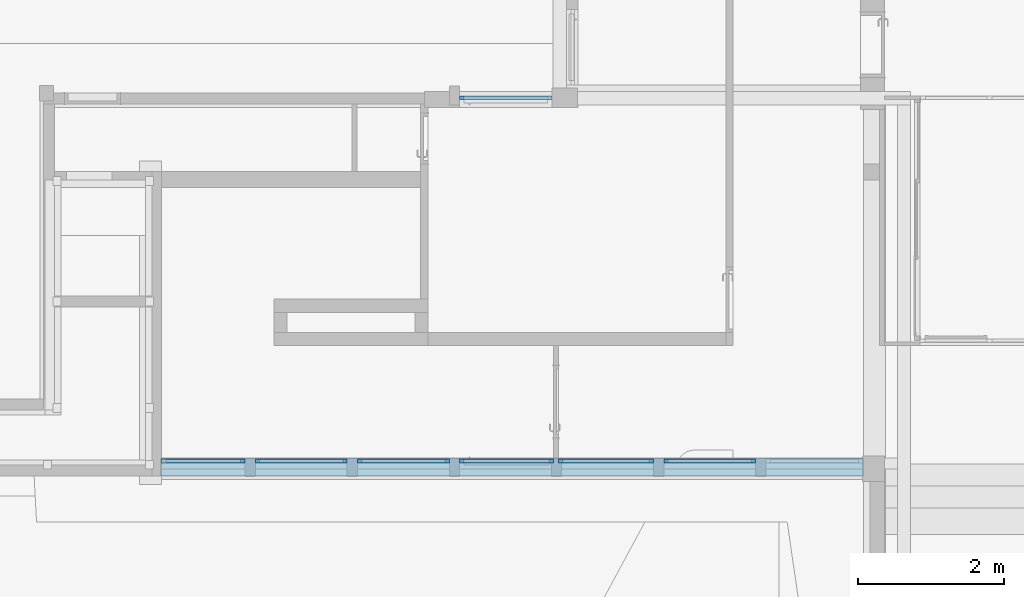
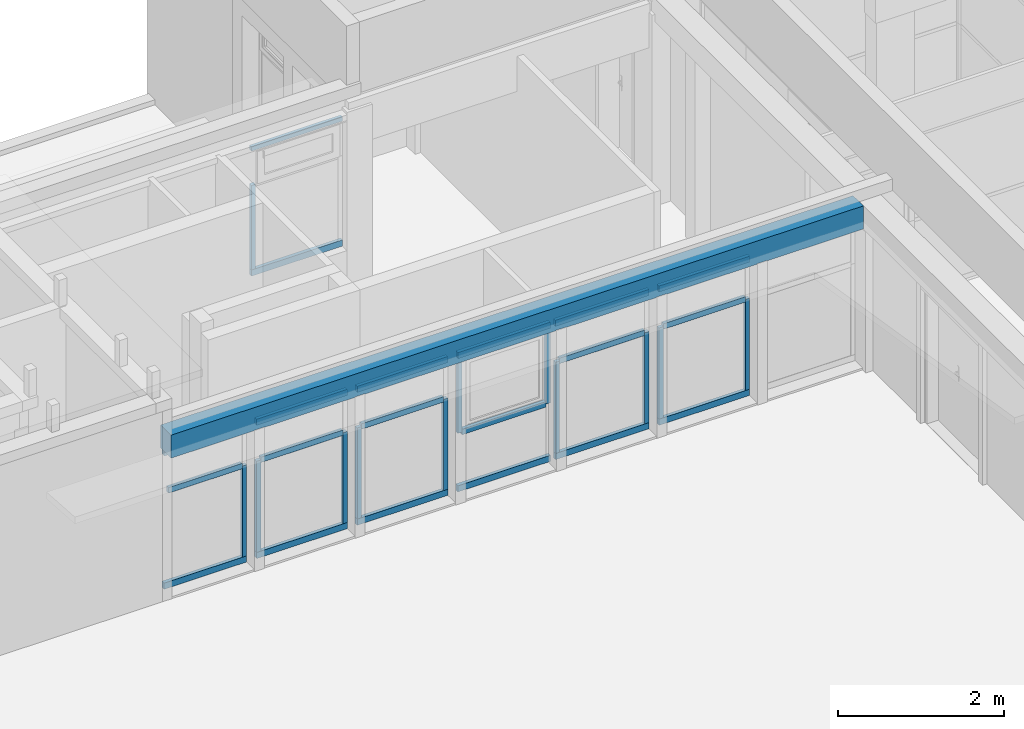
# One storey, part 6 of 49: 32 members, 1 beam, 7 elements without a shape of their own.
"""IFC4 building model written with IfcOpenShell, lengths in metres."""

from ifc_helpers import new_model, entity, si_unit, converted_unit, derived_unit, direction, frame, origin, place, context, subcontext, project, spatial, indexed_curve, outline, extrude, source, transform, mapped, material, type_object, type_shapes, element, aggregate, save


model = new_model("IFC4")

# Units and contexts
model_context = context("Model", 3, precision=1e-05, world=origin(), true_north=direction((6.12303176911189e-17, 1.0)))
body_context = subcontext(model_context, "Body", "Model", "MODEL_VIEW")
ifc_project = project(units=[si_unit("LENGTHUNIT", "METRE"), si_unit("AREAUNIT", "SQUARE_METRE"), si_unit("VOLUMEUNIT", "CUBIC_METRE"), converted_unit("PLANEANGLEUNIT", "DEGREE", entity("IfcRatioMeasure", 0.0174532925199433), si_unit("PLANEANGLEUNIT", "RADIAN"), dimensions=[0, 0, 0, 0, 0, 0, 0]), si_unit("MASSUNIT", "GRAM", prefix="KILO"), derived_unit("MASSDENSITYUNIT", [(si_unit("MASSUNIT", "GRAM", prefix="KILO"), 1), (si_unit("LENGTHUNIT", "METRE"), -3)]), derived_unit("MOMENTOFINERTIAUNIT", [(si_unit("LENGTHUNIT", "METRE"), 4)]), si_unit("TIMEUNIT", "SECOND"), si_unit("FREQUENCYUNIT", "HERTZ"), si_unit("THERMODYNAMICTEMPERATUREUNIT", "DEGREE_CELSIUS"), derived_unit("THERMALTRANSMITTANCEUNIT", [(si_unit("MASSUNIT", "GRAM", prefix="KILO"), 1), (si_unit("THERMODYNAMICTEMPERATUREUNIT", "KELVIN"), -1), (si_unit("TIMEUNIT", "SECOND"), -3)]), derived_unit("VOLUMETRICFLOWRATEUNIT", [(si_unit("LENGTHUNIT", "METRE"), 3), (si_unit("TIMEUNIT", "SECOND"), -1)]), si_unit("ELECTRICCURRENTUNIT", "AMPERE"), si_unit("ELECTRICVOLTAGEUNIT", "VOLT"), si_unit("POWERUNIT", "WATT"), si_unit("FORCEUNIT", "NEWTON", prefix="KILO"), si_unit("ILLUMINANCEUNIT", "LUX"), si_unit("LUMINOUSFLUXUNIT", "LUMEN"), si_unit("LUMINOUSINTENSITYUNIT", "CANDELA"), derived_unit("USERDEFINED", [(si_unit("MASSUNIT", "GRAM", prefix="KILO"), -1), (si_unit("LENGTHUNIT", "METRE"), -2), (si_unit("TIMEUNIT", "SECOND"), 3), (si_unit("LUMINOUSFLUXUNIT", "LUMEN"), 1)]), derived_unit("LINEARVELOCITYUNIT", [(si_unit("LENGTHUNIT", "METRE"), 1), (si_unit("TIMEUNIT", "SECOND"), -1)]), si_unit("PRESSUREUNIT", "PASCAL"), derived_unit("USERDEFINED", [(si_unit("LENGTHUNIT", "METRE"), -2), (si_unit("MASSUNIT", "GRAM", prefix="KILO"), 1), (si_unit("TIMEUNIT", "SECOND"), -2)]), derived_unit("LINEARFORCEUNIT", [(si_unit("MASSUNIT", "GRAM", prefix="KILO"), 1), (si_unit("LENGTHUNIT", "METRE"), 1), (si_unit("TIMEUNIT", "SECOND"), -2), (si_unit("LENGTHUNIT", "METRE"), -1)]), derived_unit("PLANARFORCEUNIT", [(si_unit("MASSUNIT", "GRAM", prefix="KILO"), 1), (si_unit("LENGTHUNIT", "METRE"), 1), (si_unit("TIMEUNIT", "SECOND"), -2), (si_unit("LENGTHUNIT", "METRE"), -2)])], contexts=[model_context])

# Site, building, storey
site_placement = place(None, origin())
site = spatial("IfcSite", under=ifc_project, at=site_placement, Name="Default", CompositionType="ELEMENT")
building_placement = place(site_placement, origin())
building = spatial("IfcBuilding", under=site, at=building_placement, Name="HOTEL CONSULAIRE BOULOGNE SUR MER", CompositionType="ELEMENT")
storey_placement = place(building_placement, frame((0.0, 0.0, 6.81974152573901)))
storey = spatial("IfcBuildingStorey", under=building, at=storey_placement, Name="Niveau 2", CompositionType="ELEMENT", Elevation=6.81974152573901)

# Curtain wall, member
curtain_wall_type = type_object("IfcCurtainWallType", Name="Mur-rideau:Simple panneau", PredefinedType="NOTDEFINED")
curtain_wall_1_placement = place(storey_placement, frame((0.0, 0.0, -6.81974152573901)))
curtain_wall_1 = element("IfcCurtainWall", 1, at=curtain_wall_1_placement, inside=storey, type_object=curtain_wall_type, Name="Mur-rideau:Simple panneau", ObjectType="Mur-rideau:Simple panneau", PredefinedType="NOTDEFINED")
ifc_material_1 = material(Name="PVC - Blanc", Category="Plastique")
member_type_1 = type_object("IfcMemberType", Name="Meneau rectangulaire:50 x 30", PredefinedType="MULLION", material=ifc_material_1)
shared_shape_1 = source(origin(), body_context, "Body", "SweptSolid", [
    extrude(outline(indexed_curve([(-0.025, -0.03), (0.025, -0.03), (0.025, 0.03), (-0.025, 0.03), (-0.025, -0.03)], self_intersect=False)), frame((-0.03, -0.025, -1.342), z_axis=(0.0, 0.0, 1.0), x_axis=(0.0, -1.0, 0.0)), (0.0, 0.0, 1.0), 1.342),
])
type_shapes(member_type_1, [shared_shape_1])
member_1_placement = place(storey_placement, frame((3.04421154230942, -19.6319143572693, 2.102), z_axis=(0.0, 0.0, 1.0), x_axis=(-1.0, 0.0, 0.0)))
member_1 = element("IfcMember", 2, at=member_1_placement, type_object=member_type_1, material=ifc_material_1, Name="Meneau rectangulaire:50 x 30", ObjectType="Meneau rectangulaire:50 x 30", PredefinedType="MULLION", context=body_context, shape_type="MappedRepresentation", body=[
    mapped(shared_shape_1, transform((0.0, 0.0, 0.0), scale=1.0)),
])

curtain_wall_2_placement = place(storey_placement, frame((0.0, 0.0, -6.81974152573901)))
curtain_wall_2 = element("IfcCurtainWall", 3, at=curtain_wall_2_placement, inside=storey, type_object=curtain_wall_type, Name="Mur-rideau:Simple panneau", ObjectType="Mur-rideau:Simple panneau", PredefinedType="NOTDEFINED")
member_2_placement = place(storey_placement, frame((4.44421154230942, -19.6319143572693, 2.102), z_axis=(0.0, 0.0, 1.0), x_axis=(-1.0, 0.0, 0.0)))
member_2 = element("IfcMember", 4, at=member_2_placement, type_object=member_type_1, material=ifc_material_1, Name="Meneau rectangulaire:50 x 30", ObjectType="Meneau rectangulaire:50 x 30", PredefinedType="MULLION", context=body_context, shape_type="MappedRepresentation", body=[
    mapped(shared_shape_1, transform((0.0, 0.0, 0.0), scale=1.0)),
])

curtain_wall_3_placement = place(storey_placement, frame((0.0, 0.0, -6.81974152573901)))
curtain_wall_3 = element("IfcCurtainWall", 5, at=curtain_wall_3_placement, inside=storey, type_object=curtain_wall_type, Name="Mur-rideau:Simple panneau", ObjectType="Mur-rideau:Simple panneau", PredefinedType="NOTDEFINED")
member_3_placement = place(storey_placement, frame((7.2011767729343, -19.6319143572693, 2.102), z_axis=(0.0, 0.0, 1.0), x_axis=(-1.0, 0.0, 0.0)))
member_3 = element("IfcMember", 6, at=member_3_placement, type_object=member_type_1, material=ifc_material_1, Name="Meneau rectangulaire:50 x 30", ObjectType="Meneau rectangulaire:50 x 30", PredefinedType="MULLION", context=body_context, shape_type="MappedRepresentation", body=[
    mapped(shared_shape_1, transform((0.0, 0.0, 0.0), scale=1.0)),
])

curtain_wall_4_placement = place(storey_placement, frame((0.0, 0.0, -6.81974152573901)))
curtain_wall_4 = element("IfcCurtainWall", 7, at=curtain_wall_4_placement, inside=storey, type_object=curtain_wall_type, Name="Mur-rideau:Simple panneau", ObjectType="Mur-rideau:Simple panneau", PredefinedType="NOTDEFINED")
member_4_placement = place(storey_placement, frame((8.64421154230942, -19.6319143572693, 2.102), z_axis=(0.0, 0.0, 1.0), x_axis=(-1.0, 0.0, 0.0)))
member_4 = element("IfcMember", 8, at=member_4_placement, type_object=member_type_1, material=ifc_material_1, Name="Meneau rectangulaire:50 x 30", ObjectType="Meneau rectangulaire:50 x 30", PredefinedType="MULLION", context=body_context, shape_type="MappedRepresentation", body=[
    mapped(shared_shape_1, transform((0.0, 0.0, 0.0), scale=1.0)),
])

curtain_wall_5_placement = place(storey_placement, frame((0.0, 0.0, -6.81974152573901)))
curtain_wall_5 = element("IfcCurtainWall", 9, at=curtain_wall_5_placement, inside=storey, type_object=curtain_wall_type, Name="Mur-rideau:Simple panneau", ObjectType="Mur-rideau:Simple panneau", PredefinedType="NOTDEFINED")
member_type_2 = type_object("IfcMemberType", Name="Meneau rectangulaire:50 x 30", PredefinedType="MULLION", material=ifc_material_1)
shared_shape_2 = source(origin(), body_context, "Body", "SweptSolid", [
    extrude(outline(indexed_curve([(-0.025, -0.03), (0.025, -0.03), (0.025, 0.03), (-0.025, 0.03), (-0.025, -0.03)], self_intersect=False)), frame((-0.03, -0.025, -1.342), z_axis=(0.0, 0.0, 1.0), x_axis=(0.0, -1.0, 0.0)), (0.0, 0.0, 1.0), 1.342),
])
type_shapes(member_type_2, [shared_shape_2])
member_5_placement = place(storey_placement, frame((2.90421154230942, -19.6319143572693, 0.76), z_axis=(0.0, 0.0, -1.0), x_axis=(1.0, 0.0, 0.0)))
member_5 = element("IfcMember", 10, at=member_5_placement, type_object=member_type_2, material=ifc_material_1, Name="Meneau rectangulaire:50 x 30", ObjectType="Meneau rectangulaire:50 x 30", PredefinedType="MULLION", context=body_context, shape_type="MappedRepresentation", body=[
    mapped(shared_shape_2, transform((0.0, 0.0, 0.0), scale=1.0)),
])

# Member
member_6_placement = place(storey_placement, frame((4.30421154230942, -19.6319143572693, 0.76), z_axis=(0.0, 0.0, -1.0), x_axis=(1.0, 0.0, 0.0)))
member_6 = element("IfcMember", 11, at=member_6_placement, type_object=member_type_2, material=ifc_material_1, Name="Meneau rectangulaire:50 x 30", ObjectType="Meneau rectangulaire:50 x 30", PredefinedType="MULLION", context=body_context, shape_type="MappedRepresentation", body=[
    mapped(shared_shape_2, transform((0.0, 0.0, 0.0), scale=1.0)),
])

member_7_placement = place(storey_placement, frame((5.70421154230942, -19.6319143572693, 0.76), z_axis=(0.0, 0.0, -1.0), x_axis=(1.0, 0.0, 0.0)))
member_7 = element("IfcMember", 12, at=member_7_placement, type_object=member_type_2, material=ifc_material_1, Name="Meneau rectangulaire:50 x 30", ObjectType="Meneau rectangulaire:50 x 30", PredefinedType="MULLION", context=body_context, shape_type="MappedRepresentation", body=[
    mapped(shared_shape_2, transform((0.0, 0.0, 0.0), scale=1.0)),
])

member_8_placement = place(storey_placement, frame((8.50421154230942, -19.6319143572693, 0.76), z_axis=(0.0, 0.0, -1.0), x_axis=(1.0, 0.0, 0.0)))
member_8 = element("IfcMember", 13, at=member_8_placement, type_object=member_type_2, material=ifc_material_1, Name="Meneau rectangulaire:50 x 30", ObjectType="Meneau rectangulaire:50 x 30", PredefinedType="MULLION", context=body_context, shape_type="MappedRepresentation", body=[
    mapped(shared_shape_2, transform((0.0, 0.0, 0.0), scale=1.0)),
])

member_9_placement = place(storey_placement, frame((9.90421154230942, -19.6319143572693, 0.76), z_axis=(0.0, 0.0, -1.0), x_axis=(1.0, 0.0, 0.0)))
member_9 = element("IfcMember", 14, at=member_9_placement, type_object=member_type_2, material=ifc_material_1, Name="Meneau rectangulaire:50 x 30", ObjectType="Meneau rectangulaire:50 x 30", PredefinedType="MULLION", context=body_context, shape_type="MappedRepresentation", body=[
    mapped(shared_shape_2, transform((0.0, 0.0, 0.0), scale=1.0)),
])

member_type_3 = type_object("IfcMemberType", Name="Meneau rectangulaire:50 x 40", PredefinedType="MULLION", material=ifc_material_1)
shared_shape_3 = source(origin(), body_context, "Body", "SweptSolid", [
    extrude(outline(indexed_curve([(-0.025, -0.04), (0.025, -0.04), (0.025, 0.04), (-0.025, 0.04), (-0.025, -0.04)], self_intersect=False)), frame((0.0, -0.025, -1.02674022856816), z_axis=(0.0, 0.0, 1.0), x_axis=(0.0, -1.0, 0.0)), (0.0, 0.0, 1.0), 1.02674022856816),
])
type_shapes(member_type_3, [shared_shape_3])
member_10_placement = place(storey_placement, frame((2.84421154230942, -19.6319143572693, 2.102), z_axis=(1.0, 0.0, 0.0), x_axis=(0.0, 0.0, 1.0)))
member_10 = element("IfcMember", 15, at=member_10_placement, type_object=member_type_3, material=ifc_material_1, Name="Meneau rectangulaire:50 x 40", ObjectType="Meneau rectangulaire:50 x 40", PredefinedType="MULLION", context=body_context, shape_type="MappedRepresentation", body=[
    mapped(shared_shape_3, transform((0.0, 0.0, 0.0), scale=1.0)),
])

member_type_4 = type_object("IfcMemberType", Name="Meneau rectangulaire:50 x 45", PredefinedType="MULLION", material=ifc_material_1)
shared_shape_4 = source(origin(), body_context, "Body", "SweptSolid", [
    extrude(outline(indexed_curve([(-0.025, -0.045), (0.025, -0.045), (0.025, 0.045), (-0.025, 0.045), (-0.025, -0.045)], self_intersect=False)), frame((-0.045, -0.025, -1.14674022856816), z_axis=(0.0, 0.0, 1.0), x_axis=(0.0, -1.0, 0.0)), (0.0, 0.0, 1.0), 1.14674022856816),
])
type_shapes(member_type_4, [shared_shape_4])
member_11_placement = place(storey_placement, frame((2.90421154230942, -19.6319143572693, 2.71889394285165), z_axis=(1.0, 0.0, 0.0), x_axis=(0.0, 0.0, 1.0)))
member_11 = element("IfcMember", 16, at=member_11_placement, type_object=member_type_4, material=ifc_material_1, Name="Meneau rectangulaire:50 x 45", ObjectType="Meneau rectangulaire:50 x 45", PredefinedType="MULLION", context=body_context, shape_type="MappedRepresentation", body=[
    mapped(shared_shape_4, transform((0.0, 0.0, 0.0), scale=1.0)),
])

member_type_5 = type_object("IfcMemberType", Name="Meneau rectangulaire:50 x 45", PredefinedType="MULLION", material=ifc_material_1)
shared_shape_5 = source(origin(), body_context, "Body", "SweptSolid", [
    extrude(outline(indexed_curve([(-0.025, -0.045), (0.025, -0.045), (0.025, 0.045), (-0.025, 0.045), (-0.025, -0.045)], self_intersect=False)), frame((-0.045, -0.025, -1.14674022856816), z_axis=(0.0, 0.0, 1.0), x_axis=(0.0, -1.0, 0.0)), (0.0, 0.0, 1.0), 1.14674022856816),
])
type_shapes(member_type_5, [shared_shape_5])
member_12_placement = place(storey_placement, frame((1.75747131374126, -19.6319143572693, 0.67), z_axis=(-1.0, 0.0, 0.0), x_axis=(0.0, 0.0, -1.0)))
member_12 = element("IfcMember", 17, at=member_12_placement, type_object=member_type_5, material=ifc_material_1, Name="Meneau rectangulaire:50 x 45", ObjectType="Meneau rectangulaire:50 x 45", PredefinedType="MULLION", context=body_context, shape_type="MappedRepresentation", body=[
    mapped(shared_shape_5, transform((0.0, 0.0, 0.0), scale=1.0)),
])

aggregate(curtain_wall_5, [member_5, member_10, member_11, member_12])

member_type_6 = type_object("IfcMemberType", Name="Meneau rectangulaire:50 x 40", PredefinedType="MULLION", material=ifc_material_1)
shared_shape_6 = source(origin(), body_context, "Body", "SweptSolid", [
    extrude(outline(indexed_curve([(-0.025, -0.04), (0.025, -0.04), (0.025, 0.04), (-0.025, 0.04), (-0.025, -0.04)], self_intersect=False)), frame((0.0, -0.025, -1.14), z_axis=(0.0, 0.0, 1.0), x_axis=(0.0, -1.0, 0.0)), (0.0, 0.0, 1.0), 1.14),
])
type_shapes(member_type_6, [shared_shape_6])
member_13_placement = place(storey_placement, frame((4.24421154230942, -19.6319143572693, 2.102), z_axis=(1.0, 0.0, 0.0), x_axis=(0.0, 0.0, 1.0)))
member_13 = element("IfcMember", 18, at=member_13_placement, type_object=member_type_6, material=ifc_material_1, Name="Meneau rectangulaire:50 x 40", ObjectType="Meneau rectangulaire:50 x 40", PredefinedType="MULLION", context=body_context, shape_type="MappedRepresentation", body=[
    mapped(shared_shape_6, transform((0.0, 0.0, 0.0), scale=1.0)),
])

member_14_placement = place(storey_placement, frame((5.64421154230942, -19.6319143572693, 2.102), z_axis=(1.0, 0.0, 0.0), x_axis=(0.0, 0.0, 1.0)))
member_14 = element("IfcMember", 19, at=member_14_placement, type_object=member_type_6, material=ifc_material_1, Name="Meneau rectangulaire:50 x 40", ObjectType="Meneau rectangulaire:50 x 40", PredefinedType="MULLION", context=body_context, shape_type="MappedRepresentation", body=[
    mapped(shared_shape_6, transform((0.0, 0.0, 0.0), scale=1.0)),
])

member_15_placement = place(storey_placement, frame((9.84421154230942, -19.6319143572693, 2.102), z_axis=(1.0, 0.0, 0.0), x_axis=(0.0, 0.0, 1.0)))
member_15 = element("IfcMember", 20, at=member_15_placement, type_object=member_type_6, material=ifc_material_1, Name="Meneau rectangulaire:50 x 40", ObjectType="Meneau rectangulaire:50 x 40", PredefinedType="MULLION", context=body_context, shape_type="MappedRepresentation", body=[
    mapped(shared_shape_6, transform((0.0, 0.0, 0.0), scale=1.0)),
])

member_type_7 = type_object("IfcMemberType", Name="Meneau rectangulaire:50 x 45", PredefinedType="MULLION", material=ifc_material_1)
shared_shape_7 = source(origin(), body_context, "Body", "SweptSolid", [
    extrude(outline(indexed_curve([(-0.025, -0.045), (0.025, -0.045), (0.025, 0.045), (-0.025, 0.045), (-0.025, -0.045)], self_intersect=False)), frame((-0.045, -0.025, -1.26), z_axis=(0.0, 0.0, 1.0), x_axis=(0.0, -1.0, 0.0)), (0.0, 0.0, 1.0), 1.26),
])
type_shapes(member_type_7, [shared_shape_7])
member_16_placement = place(storey_placement, frame((4.30421154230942, -19.6319143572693, 2.71889394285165), z_axis=(1.0, 0.0, 0.0), x_axis=(0.0, 0.0, 1.0)))
member_16 = element("IfcMember", 21, at=member_16_placement, type_object=member_type_7, material=ifc_material_1, Name="Meneau rectangulaire:50 x 45", ObjectType="Meneau rectangulaire:50 x 45", PredefinedType="MULLION", context=body_context, shape_type="MappedRepresentation", body=[
    mapped(shared_shape_7, transform((0.0, 0.0, 0.0), scale=1.0)),
])

member_17_placement = place(storey_placement, frame((5.70421154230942, -19.6319143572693, 2.712), z_axis=(1.0, 0.0, 0.0), x_axis=(0.0, 0.0, 1.0)))
member_17 = element("IfcMember", 22, at=member_17_placement, type_object=member_type_7, material=ifc_material_1, Name="Meneau rectangulaire:50 x 45", ObjectType="Meneau rectangulaire:50 x 45", PredefinedType="MULLION", context=body_context, shape_type="MappedRepresentation", body=[
    mapped(shared_shape_7, transform((0.0, 0.0, 0.0), scale=1.0)),
])

member_18_placement = place(storey_placement, frame((9.90421154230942, -19.6319143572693, 2.71889394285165), z_axis=(1.0, 0.0, 0.0), x_axis=(0.0, 0.0, 1.0)))
member_18 = element("IfcMember", 23, at=member_18_placement, type_object=member_type_7, material=ifc_material_1, Name="Meneau rectangulaire:50 x 45", ObjectType="Meneau rectangulaire:50 x 45", PredefinedType="MULLION", context=body_context, shape_type="MappedRepresentation", body=[
    mapped(shared_shape_7, transform((0.0, 0.0, 0.0), scale=1.0)),
])

member_type_8 = type_object("IfcMemberType", Name="Meneau rectangulaire:50 x 45", PredefinedType="MULLION", material=ifc_material_1)
shared_shape_8 = source(origin(), body_context, "Body", "SweptSolid", [
    extrude(outline(indexed_curve([(-0.025, -0.045), (0.025, -0.045), (0.025, 0.045), (-0.025, 0.045), (-0.025, -0.045)], self_intersect=False)), frame((-0.045, -0.025, -1.26), z_axis=(0.0, 0.0, 1.0), x_axis=(0.0, -1.0, 0.0)), (0.0, 0.0, 1.0), 1.26),
])
type_shapes(member_type_8, [shared_shape_8])
member_19_placement = place(storey_placement, frame((3.04421154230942, -19.6319143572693, 0.67), z_axis=(-1.0, 0.0, 0.0), x_axis=(0.0, 0.0, -1.0)))
member_19 = element("IfcMember", 24, at=member_19_placement, type_object=member_type_8, material=ifc_material_1, Name="Meneau rectangulaire:50 x 45", ObjectType="Meneau rectangulaire:50 x 45", PredefinedType="MULLION", context=body_context, shape_type="MappedRepresentation", body=[
    mapped(shared_shape_8, transform((0.0, 0.0, 0.0), scale=1.0)),
])

aggregate(curtain_wall_1, [member_1, member_6, member_13, member_16, member_19])

member_20_placement = place(storey_placement, frame((4.44421154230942, -19.6319143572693, 0.67), z_axis=(-1.0, 0.0, 0.0), x_axis=(0.0, 0.0, -1.0)))
member_20 = element("IfcMember", 25, at=member_20_placement, type_object=member_type_8, material=ifc_material_1, Name="Meneau rectangulaire:50 x 45", ObjectType="Meneau rectangulaire:50 x 45", PredefinedType="MULLION", context=body_context, shape_type="MappedRepresentation", body=[
    mapped(shared_shape_8, transform((0.0, 0.0, 0.0), scale=1.0)),
])

aggregate(curtain_wall_2, [member_2, member_7, member_14, member_17, member_20])

member_21_placement = place(storey_placement, frame((8.64421154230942, -19.6319143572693, 0.67), z_axis=(-1.0, 0.0, 0.0), x_axis=(0.0, 0.0, -1.0)))
member_21 = element("IfcMember", 26, at=member_21_placement, type_object=member_type_8, material=ifc_material_1, Name="Meneau rectangulaire:50 x 45", ObjectType="Meneau rectangulaire:50 x 45", PredefinedType="MULLION", context=body_context, shape_type="MappedRepresentation", body=[
    mapped(shared_shape_8, transform((0.0, 0.0, 0.0), scale=1.0)),
])

aggregate(curtain_wall_4, [member_4, member_9, member_15, member_18, member_21])

# Curtain wall, members
curtain_wall_6_placement = place(storey_placement, frame((0.0, 0.0, -6.81974152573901)))
curtain_wall_6 = element("IfcCurtainWall", 27, at=curtain_wall_6_placement, inside=storey, type_object=curtain_wall_type, Name="Mur-rideau:Simple panneau", ObjectType="Mur-rideau:Simple panneau", PredefinedType="NOTDEFINED")
member_type_9 = type_object("IfcMemberType", Name="Meneau rectangulaire:50 x 30", PredefinedType="MULLION", material=ifc_material_1)
shared_shape_9 = source(origin(), body_context, "Body", "SweptSolid", [
    extrude(outline(indexed_curve([(-0.025, -0.03), (0.025, -0.03), (0.025, 0.03), (-0.025, 0.03), (-0.025, -0.03)], self_intersect=False)), frame((-0.03, -0.025, -1.09789394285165), z_axis=(0.0, 0.0, 1.0), x_axis=(0.0, -1.0, 0.0)), (0.0, 0.0, 1.0), 1.09789394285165),
])
type_shapes(member_type_9, [shared_shape_9])
member_22_placement = place(storey_placement, frame((5.84421154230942, -19.6319143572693, 2.62889394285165), z_axis=(0.0, 0.0, 1.0), x_axis=(-1.0, 0.0, 0.0)))
member_22 = element("IfcMember", 28, at=member_22_placement, type_object=member_type_9, material=ifc_material_1, Name="Meneau rectangulaire:50 x 30", ObjectType="Meneau rectangulaire:50 x 30", PredefinedType="MULLION", context=body_context, shape_type="MappedRepresentation", body=[
    mapped(shared_shape_9, transform((0.0, 0.0, 0.0), scale=1.0)),
])
member_type_10 = type_object("IfcMemberType", Name="Meneau rectangulaire:50 x 30", PredefinedType="MULLION", material=ifc_material_1)
shared_shape_10 = source(origin(), body_context, "Body", "SweptSolid", [
    extrude(outline(indexed_curve([(-0.025, -0.03), (0.025, -0.03), (0.025, 0.03), (-0.025, 0.03), (-0.025, -0.03)], self_intersect=False)), frame((-0.03, -0.025, -1.09789394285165), z_axis=(0.0, 0.0, 1.0), x_axis=(0.0, -1.0, 0.0)), (0.0, 0.0, 1.0), 1.09789394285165),
])
type_shapes(member_type_10, [shared_shape_10])
member_23_placement = place(storey_placement, frame((7.1311767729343, -19.6319143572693, 1.531), z_axis=(0.0, 0.0, -1.0), x_axis=(1.0, 0.0, 0.0)))
member_23 = element("IfcMember", 29, at=member_23_placement, type_object=member_type_10, material=ifc_material_1, Name="Meneau rectangulaire:50 x 30", ObjectType="Meneau rectangulaire:50 x 30", PredefinedType="MULLION", context=body_context, shape_type="MappedRepresentation", body=[
    mapped(shared_shape_10, transform((0.0, 0.0, 0.0), scale=1.0)),
])
member_type_11 = type_object("IfcMemberType", Name="Meneau rectangulaire:50 x 40", PredefinedType="MULLION", material=ifc_material_1)
shared_shape_11 = source(origin(), body_context, "Body", "SweptSolid", [
    extrude(outline(indexed_curve([(-0.025, -0.04), (0.025, -0.04), (0.025, 0.04), (-0.025, 0.04), (-0.025, -0.04)], self_intersect=False)), frame((0.0, -0.025, -1.16696523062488), z_axis=(0.0, 0.0, 1.0), x_axis=(0.0, -1.0, 0.0)), (0.0, 0.0, 1.0), 1.16696523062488),
])
type_shapes(member_type_11, [shared_shape_11])
member_24_placement = place(storey_placement, frame((7.0711767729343, -19.6319143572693, 1.531), z_axis=(1.0, 0.0, 0.0), x_axis=(0.0, 0.0, 1.0)))
member_24 = element("IfcMember", 30, at=member_24_placement, type_object=member_type_11, material=ifc_material_1, Name="Meneau rectangulaire:50 x 40", ObjectType="Meneau rectangulaire:50 x 40", PredefinedType="MULLION", context=body_context, shape_type="MappedRepresentation", body=[
    mapped(shared_shape_11, transform((0.0, 0.0, 0.0), scale=1.0)),
])
member_type_12 = type_object("IfcMemberType", Name="Meneau rectangulaire:50 x 45", PredefinedType="MULLION", material=ifc_material_1)
shared_shape_12 = source(origin(), body_context, "Body", "SweptSolid", [
    extrude(outline(indexed_curve([(-0.025, -0.045), (0.025, -0.045), (0.025, 0.045), (-0.025, 0.045), (-0.025, -0.045)], self_intersect=False)), frame((-0.045, -0.025, -1.28696523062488), z_axis=(0.0, 0.0, 1.0), x_axis=(0.0, -1.0, 0.0)), (0.0, 0.0, 1.0), 1.28696523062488),
])
type_shapes(member_type_12, [shared_shape_12])
member_25_placement = place(storey_placement, frame((7.1311767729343, -19.6319143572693, 2.71889394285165), z_axis=(1.0, 0.0, 0.0), x_axis=(0.0, 0.0, 1.0)))
member_25 = element("IfcMember", 31, at=member_25_placement, type_object=member_type_12, material=ifc_material_1, Name="Meneau rectangulaire:50 x 45", ObjectType="Meneau rectangulaire:50 x 45", PredefinedType="MULLION", context=body_context, shape_type="MappedRepresentation", body=[
    mapped(shared_shape_12, transform((0.0, 0.0, 0.0), scale=1.0)),
])
member_type_13 = type_object("IfcMemberType", Name="Meneau rectangulaire:50 x 45", PredefinedType="MULLION", material=ifc_material_1)
shared_shape_13 = source(origin(), body_context, "Body", "SweptSolid", [
    extrude(outline(indexed_curve([(-0.025, -0.045), (0.025, -0.045), (0.025, 0.045), (-0.025, 0.045), (-0.025, -0.045)], self_intersect=False)), frame((-0.045, -0.025, -1.28696523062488), z_axis=(0.0, 0.0, 1.0), x_axis=(0.0, -1.0, 0.0)), (0.0, 0.0, 1.0), 1.28696523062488),
])
type_shapes(member_type_13, [shared_shape_13])
member_26_placement = place(storey_placement, frame((5.84421154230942, -19.6319143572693, 0.67), z_axis=(-1.0, 0.0, 0.0), x_axis=(0.0, 0.0, -1.0)))
member_26 = element("IfcMember", 32, at=member_26_placement, type_object=member_type_13, material=ifc_material_1, Name="Meneau rectangulaire:50 x 45", ObjectType="Meneau rectangulaire:50 x 45", PredefinedType="MULLION", context=body_context, shape_type="MappedRepresentation", body=[
    mapped(shared_shape_13, transform((0.0, 0.0, 0.0), scale=1.0)),
])
aggregate(curtain_wall_6, [member_22, member_23, member_24, member_25, member_26])

# Member
member_type_14 = type_object("IfcMemberType", Name="Meneau rectangulaire:50 x 40", PredefinedType="MULLION", material=ifc_material_1)
shared_shape_14 = source(origin(), body_context, "Body", "SweptSolid", [
    extrude(outline(indexed_curve([(-0.025, -0.04), (0.025, -0.04), (0.025, 0.04), (-0.025, 0.04), (-0.025, -0.04)], self_intersect=False)), frame((0.0, -0.025, -1.18303476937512), z_axis=(0.0, 0.0, 1.0), x_axis=(0.0, -1.0, 0.0)), (0.0, 0.0, 1.0), 1.18303476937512),
])
type_shapes(member_type_14, [shared_shape_14])
member_27_placement = place(storey_placement, frame((8.44421154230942, -19.6319143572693, 2.102), z_axis=(1.0, 0.0, 0.0), x_axis=(0.0, 0.0, 1.0)))
member_27 = element("IfcMember", 33, at=member_27_placement, type_object=member_type_14, material=ifc_material_1, Name="Meneau rectangulaire:50 x 40", ObjectType="Meneau rectangulaire:50 x 40", PredefinedType="MULLION", context=body_context, shape_type="MappedRepresentation", body=[
    mapped(shared_shape_14, transform((0.0, 0.0, 0.0), scale=1.0)),
])

member_type_15 = type_object("IfcMemberType", Name="Meneau rectangulaire:50 x 45", PredefinedType="MULLION", material=ifc_material_1)
shared_shape_15 = source(origin(), body_context, "Body", "SweptSolid", [
    extrude(outline(indexed_curve([(-0.025, -0.045), (0.025, -0.045), (0.025, 0.045), (-0.025, 0.045), (-0.025, -0.045)], self_intersect=False)), frame((-0.045, -0.025, -1.30303476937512), z_axis=(0.0, 0.0, 1.0), x_axis=(0.0, -1.0, 0.0)), (0.0, 0.0, 1.0), 1.30303476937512),
])
type_shapes(member_type_15, [shared_shape_15])
member_28_placement = place(storey_placement, frame((8.50421154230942, -19.6319143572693, 2.71889394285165), z_axis=(1.0, 0.0, 0.0), x_axis=(0.0, 0.0, 1.0)))
member_28 = element("IfcMember", 34, at=member_28_placement, type_object=member_type_15, material=ifc_material_1, Name="Meneau rectangulaire:50 x 45", ObjectType="Meneau rectangulaire:50 x 45", PredefinedType="MULLION", context=body_context, shape_type="MappedRepresentation", body=[
    mapped(shared_shape_15, transform((0.0, 0.0, 0.0), scale=1.0)),
])

member_type_16 = type_object("IfcMemberType", Name="Meneau rectangulaire:50 x 45", PredefinedType="MULLION", material=ifc_material_1)
shared_shape_16 = source(origin(), body_context, "Body", "SweptSolid", [
    extrude(outline(indexed_curve([(-0.025, -0.045), (0.025, -0.045), (0.025, 0.045), (-0.025, 0.045), (-0.025, -0.045)], self_intersect=False)), frame((-0.045, -0.025, -1.30303476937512), z_axis=(0.0, 0.0, 1.0), x_axis=(0.0, -1.0, 0.0)), (0.0, 0.0, 1.0), 1.30303476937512),
])
type_shapes(member_type_16, [shared_shape_16])
member_29_placement = place(storey_placement, frame((7.2011767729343, -19.6319143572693, 0.67), z_axis=(-1.0, 0.0, 0.0), x_axis=(0.0, 0.0, -1.0)))
member_29 = element("IfcMember", 35, at=member_29_placement, type_object=member_type_16, material=ifc_material_1, Name="Meneau rectangulaire:50 x 45", ObjectType="Meneau rectangulaire:50 x 45", PredefinedType="MULLION", context=body_context, shape_type="MappedRepresentation", body=[
    mapped(shared_shape_16, transform((0.0, 0.0, 0.0), scale=1.0)),
])

aggregate(curtain_wall_3, [member_3, member_8, member_27, member_28, member_29])

# Curtain wall, members
curtain_wall_7_placement = place(storey_placement, frame((0.0, 0.0, -6.81974152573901)))
curtain_wall_7 = element("IfcCurtainWall", 36, at=curtain_wall_7_placement, inside=storey, type_object=curtain_wall_type, Name="Mur-rideau:Simple panneau", ObjectType="Mur-rideau:Simple panneau", PredefinedType="NOTDEFINED")
member_type_17 = type_object("IfcMemberType", Name="Meneau rectangulaire:50 x 30", PredefinedType="MULLION", material=ifc_material_1)
shared_shape_17 = source(origin(), body_context, "Body", "SweptSolid", [
    extrude(outline(indexed_curve([(-0.025, -0.03), (0.025, -0.03), (0.025, 0.03), (-0.025, 0.03), (-0.025, -0.03)], self_intersect=False)), frame((-0.03, -0.025, -1.244), z_axis=(0.0, 0.0, 1.0), x_axis=(0.0, -1.0, 0.0)), (0.0, 0.0, 1.0), 1.244),
])
type_shapes(member_type_17, [shared_shape_17])
member_30_placement = place(storey_placement, frame((5.84421154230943, -14.6529109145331, 2.15873410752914), z_axis=(0.0, 0.0, 1.0), x_axis=(-1.0, 0.0, 0.0)))
member_30 = element("IfcMember", 37, at=member_30_placement, type_object=member_type_17, material=ifc_material_1, Name="Meneau rectangulaire:50 x 30", ObjectType="Meneau rectangulaire:50 x 30", PredefinedType="MULLION", context=body_context, shape_type="MappedRepresentation", body=[
    mapped(shared_shape_17, transform((0.0, 0.0, 0.0), scale=1.0)),
])
member_type_18 = type_object("IfcMemberType", Name="Meneau rectangulaire:50 x 30", PredefinedType="MULLION", material=ifc_material_1)
shared_shape_18 = source(origin(), body_context, "Body", "SweptSolid", [
    extrude(outline(indexed_curve([(-0.025, -0.03), (0.025, -0.03), (0.025, 0.03), (-0.025, 0.03), (-0.025, -0.03)], self_intersect=False)), frame((-0.03, -0.025, -1.26925623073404), z_axis=(0.0, 0.0, 1.0), x_axis=(0.0, -1.0, 0.0)), (0.0, 0.0, 1.0), 1.26925623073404),
])
type_shapes(member_type_18, [shared_shape_18])
member_31_placement = place(storey_placement, frame((7.11346777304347, -14.6529109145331, 2.72473410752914), z_axis=(1.0, 0.0, 0.0), x_axis=(0.0, 0.0, 1.0)))
member_31 = element("IfcMember", 38, at=member_31_placement, type_object=member_type_18, material=ifc_material_1, Name="Meneau rectangulaire:50 x 30", ObjectType="Meneau rectangulaire:50 x 30", PredefinedType="MULLION", context=body_context, shape_type="MappedRepresentation", body=[
    mapped(shared_shape_18, transform((0.0, 0.0, 0.0), scale=1.0)),
])
member_type_19 = type_object("IfcMemberType", Name="Meneau rectangulaire:50 x 45", PredefinedType="MULLION", material=ifc_material_1)
shared_shape_19 = source(origin(), body_context, "Body", "SweptSolid", [
    extrude(outline(indexed_curve([(-0.025, -0.045), (0.025, -0.045), (0.025, 0.045), (-0.025, 0.045), (-0.025, -0.045)], self_intersect=False)), frame((-0.045, -0.025, -1.26925623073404), z_axis=(0.0, 0.0, 1.0), x_axis=(0.0, -1.0, 0.0)), (0.0, 0.0, 1.0), 1.26925623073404),
])
type_shapes(member_type_19, [shared_shape_19])
member_32_placement = place(storey_placement, frame((5.84421154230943, -14.6529109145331, 0.824734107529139), z_axis=(-1.0, 0.0, 0.0), x_axis=(0.0, 0.0, -1.0)))
member_32 = element("IfcMember", 39, at=member_32_placement, type_object=member_type_19, material=ifc_material_1, Name="Meneau rectangulaire:50 x 45", ObjectType="Meneau rectangulaire:50 x 45", PredefinedType="MULLION", context=body_context, shape_type="MappedRepresentation", body=[
    mapped(shared_shape_19, transform((0.0, 0.0, 0.0), scale=1.0)),
])
aggregate(curtain_wall_7, [member_31, member_32, member_30])

# Beam
ifc_material_2 = material(Name="Béton - Béton coulé sur place", Category="Béton")
beam_type = type_object("IfcBeamType", Name="Poutre rectangulaire - Béton:250x340", PredefinedType="BEAM", material=ifc_material_2)
shared_shape_20 = source(origin(), body_context, "Body", "SweptSolid", [
    extrude(outline(indexed_curve([(-4.48781656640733, -0.298117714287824), (-4.47533525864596, -0.298117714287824), (5.1491021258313, -0.298117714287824), (5.1491021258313, 0.0418822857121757), (3.8114049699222, 0.0418822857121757), (3.8114049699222, 0.0349883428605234), (3.6714049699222, 0.0349883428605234), (3.6714049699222, 0.0418822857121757), (2.4114049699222, 0.0418822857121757), (2.4114049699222, 0.0349883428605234), (2.2714049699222, 0.0349883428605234), (2.2714049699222, 0.0418822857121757), (1.0114049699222, 0.0418822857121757), (1.0114049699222, 0.0349883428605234), (0.8714049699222, 0.0349883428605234), (0.8714049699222, 0.0418822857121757), (-1.7885950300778, 0.0418822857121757), (-1.7885950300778, 0.0349883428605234), (-1.9285950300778, 0.0349883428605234), (-1.9285950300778, 0.0418822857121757), (-3.1885950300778, 0.0418822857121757), (-3.1885950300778, 0.0349883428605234), (-3.3285950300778, 0.0349883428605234), (-3.3285950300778, 0.0418822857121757), (-4.47533525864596, 0.0418822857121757), (-4.48781656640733, 0.0418822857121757), (-4.48781656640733, -0.298117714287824)], self_intersect=False)), frame((4.48781656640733, 0.0, 0.0418822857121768), z_axis=(0.0, 1.0, 0.0), x_axis=(1.0, 0.0, 0.0)), (0.0, 0.0, 1.0), 0.249999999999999),
])
type_shapes(beam_type, [shared_shape_20])
beam_placement = place(storey_placement, frame((1.74499000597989, -19.8149143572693, 2.712)))
element("IfcBeam", 40, at=beam_placement, inside=storey, type_object=beam_type, material=ifc_material_2, Name="Poutre rectangulaire - Béton:250x340", ObjectType="Poutre rectangulaire - Béton:250x340", PredefinedType="BEAM", context=body_context, shape_type="MappedRepresentation", body=[
    mapped(shared_shape_20, transform((0.0, 0.0, 0.0), scale=1.0)),
])

save(model, "model.ifc")
